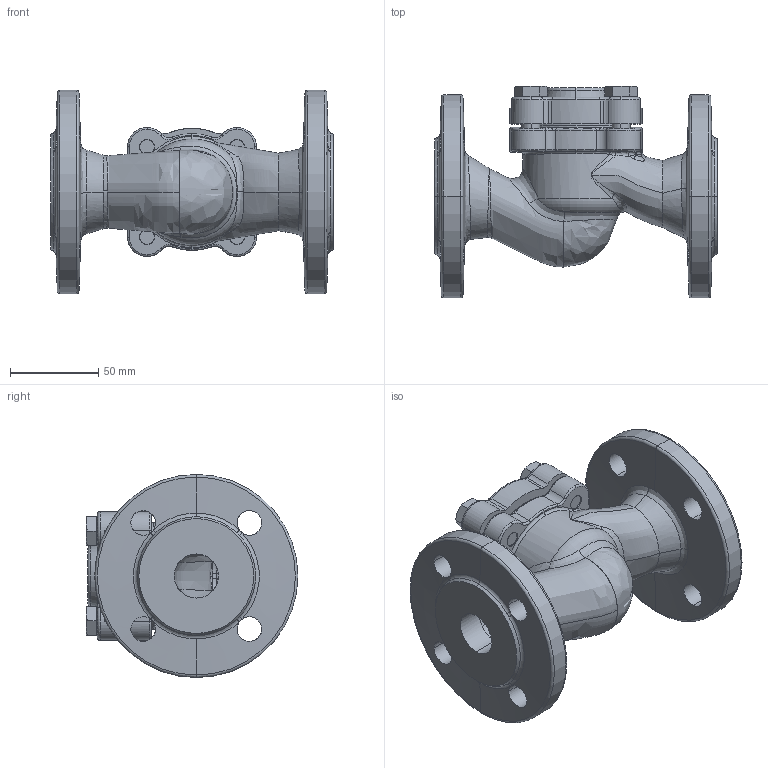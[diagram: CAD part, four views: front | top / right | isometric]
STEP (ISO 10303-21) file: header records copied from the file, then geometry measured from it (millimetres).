
FILE_DESCRIPTION (( 'STEP AP214' ), '1' );
FILE_NAME ('TCV_DN25 PN16.STEP', '2024-08-15T11:53:04', ( '' ), ( '' ), 'SwSTEP 2.0', 'SolidWorks 2023', '' );
FILE_SCHEMA (( 'AUTOMOTIVE_DESIGN' ));
Length unit declared in the file: millimetre
Products named in the file (1): TCV_DN25 PN16
Bounding box: 160 x 119.9 x 115 mm (x, y, z)
Volume: 533217.8 mm3; surface area: 121362.9 mm2
Topology: 6 solids, 6 shells, 462 faces, 1164 edges, 699 vertices
Faces by surface type: cylinder 128, bspline 124, plane 98, torus 60, cone 52
Entity records: 77205 total; most frequent: CARTESIAN_POINT 67337, ORIENTED_EDGE 2306, DIRECTION 1677, EDGE_CURVE 1153, VERTEX_POINT 699, AXIS2_PLACEMENT_3D 697, EDGE_LOOP 494, ADVANCED_FACE 462
